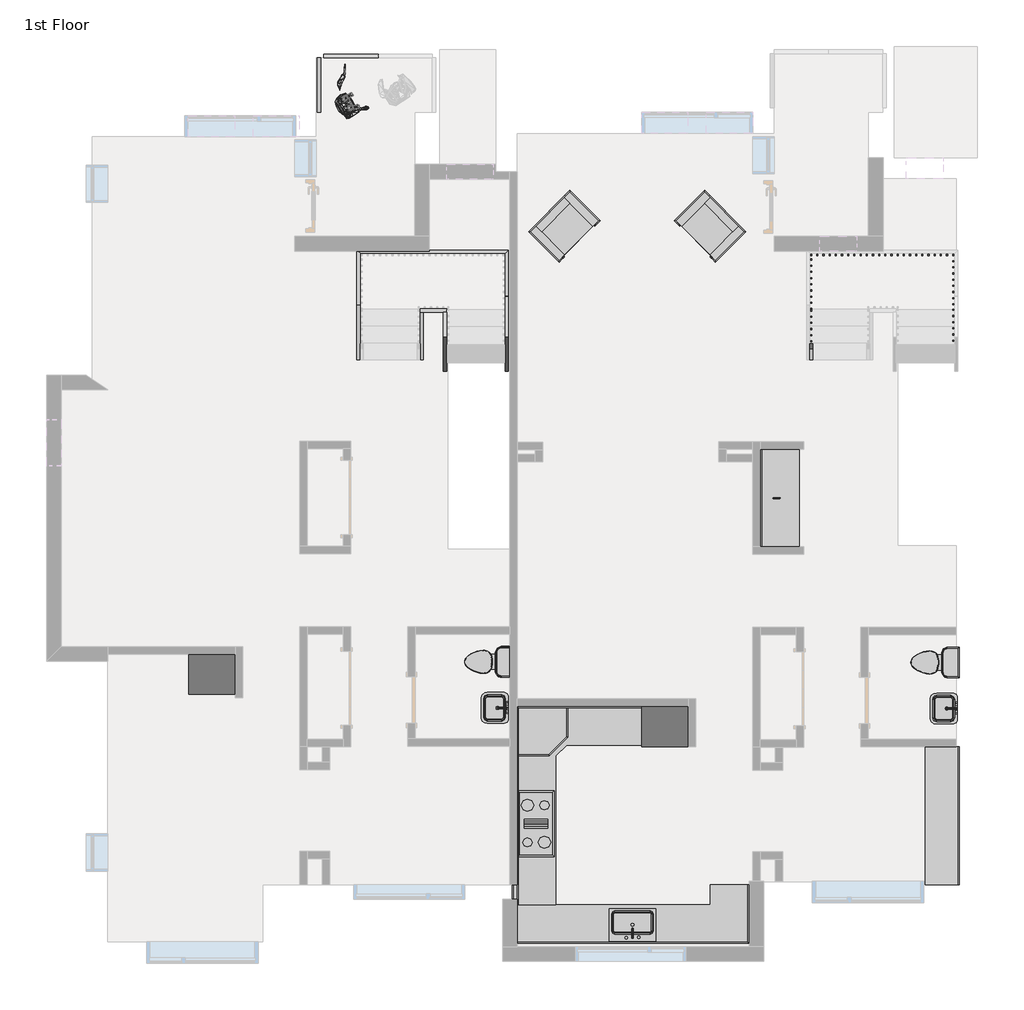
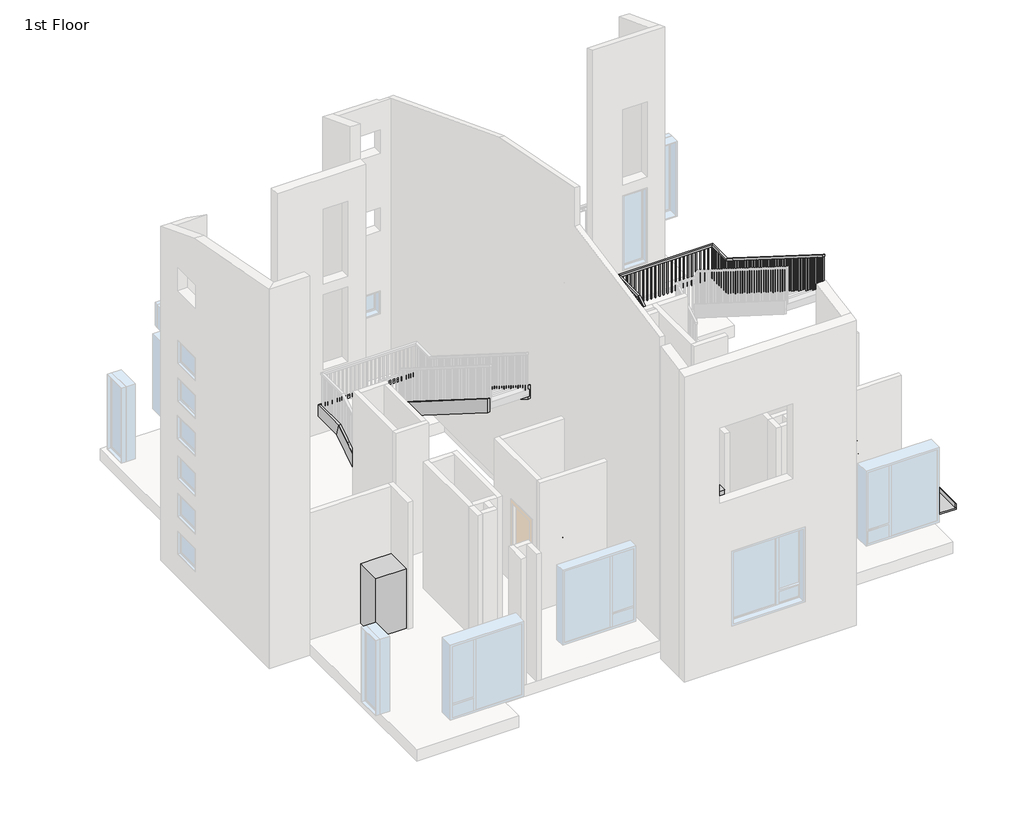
# One storey, part 5 of 6: 15 furniture elements, 8 members, 6 flow terminals, 5 proxies, 1 geographic element, 1 railing.
"""IFC4 building model written with IfcOpenShell, lengths in millimetres."""

from ifc_helpers import new_model, si_unit, frame, origin, place, context, project, spatial, polyline, outline, extrude, faceted_brep, transform, mapped, element, save
from components import proxy_dee7c00b, proxy_442c6cfd, railing_1panel_square_2b676750, flow_terminal_4af5d52b, flow_terminal_5184717d, flow_terminal_0aeb31e3, toilet_domestic_3d_toilet_domestic_3d_3687f172, toilet_domestic_3d_toilet_domestic_3d_183bbd19, furniture_f1e63d7b, furniture_c05eaed2, furniture_9c6ca97c, furniture_16018ffc, furniture_1f73a918, furniture_61266c35, furniture_aef3df76, furniture_a113b24a, furniture_f167ba72, corbu_armchair_corbu_armchair_71097553, corbu_armchair_corbu_armchair_8b21c121, furniture_7ee350fa, counter_top_counter_top_2_d2a73151, furniture_c58d4479, furniture_23ed0d10, geographic_element_6e18f213, geographic_element_c4ab7724

model = new_model("IFC4")

# Units and contexts
model_context = context("Model", 3, world=origin())
ifc_project = project(units=[si_unit("LENGTHUNIT", "METRE", prefix="MILLI")], contexts=[model_context])

# Site, building, storey
site = spatial("IfcSite", under=ifc_project)
building = spatial("IfcBuilding", under=site)
storey = spatial("IfcBuildingStorey", under=building, Name="1st Floor", Elevation=0.0)

# Proxies
placement = place(None, origin())
proxy_shape = proxy_dee7c00b(model_context)
element("IfcBuildingElementProxy", 1, Name="Cook Top-4 Unit : 40\" x 21\"", ObjectType="Cook Top-4 Unit : 40\" x 21\"", at=placement, inside=storey, context=model_context, shape_type="MappedRepresentation", body=[
    mapped(proxy_shape, transform((-1269.7321781, -4910.7686915, 127.0), x_axis=(0.0, 1.0, 0.0), y_axis=(-1.0, 0.0, 0.0), z_axis=(0.0, 0.0, 1.0))),
])
proxy_2_shape = proxy_442c6cfd(model_context)
element("IfcBuildingElementProxy", 2, Name="Refrigerator : 30\" x 62\"", ObjectType="Refrigerator : 30\" x 62\"", at=placement, inside=storey, context=model_context, shape_type="MappedRepresentation", body=[
    mapped(proxy_2_shape, transform((1235.5655789, -2979.9561915, 0.0), x_axis=(-1.0, 0.0, 0.0), y_axis=(0.0, -1.0, 0.0), z_axis=(0.0, 0.0, 1.0))),
])
element("IfcBuildingElementProxy", 3, Name="Refrigerator : 30\" x 62\"", ObjectType="Refrigerator : 30\" x 62\"", at=placement, inside=storey, context=model_context, shape_type="MappedRepresentation", body=[
    mapped(proxy_2_shape, transform((-6218.0913287, -2121.3686915, 0.0), x_axis=(-1.0, 0.0, 0.0), y_axis=(0.0, -1.0, 0.0), z_axis=(0.0, 0.0, 1.0))),
])
railing_1panel_square_shape = railing_1panel_square_2b676750(model_context)
element("IfcBuildingElementProxy", 4, Name="railing(inprogress)3 : railing 1panel square", ObjectType="railing(inprogress)3 : railing 1panel square", at=placement, inside=storey, context=model_context, shape_type="MappedRepresentation", body=[
    mapped(railing_1panel_square_shape, transform((-4828.9823605, 6715.6813085, 0.0), x_axis=(0.0, 1.0, 0.0), y_axis=(-1.0, 0.0, 0.0), z_axis=(0.0, 0.0, 1.0))),
])
element("IfcBuildingElementProxy", 5, Name="railing(inprogress)3 : railing 1panel square", ObjectType="railing(inprogress)3 : railing 1panel square", at=placement, inside=storey, context=model_context, shape_type="MappedRepresentation", body=[
    mapped(railing_1panel_square_shape, transform((-4839.2723151, 7708.900241, 0.0), x_axis=(1.0, 0.0, 0.0), y_axis=(0.0, 1.0, 0.0), z_axis=(0.0, 0.0, 1.0))),
])

# Flow terminals
flow_terminal_shape = flow_terminal_4af5d52b(model_context)
element("IfcFlowTerminal", 6, ObjectType="Sink Kitchen-Single : 30\" x 21\"", at=placement, inside=storey, context=model_context, shape_type="MappedRepresentation", body=[
    mapped(flow_terminal_shape, transform((334.5070625, -6571.2232904, 0.0), x_axis=(-1.0, 0.0, 0.0), y_axis=(0.0, -1.0, 0.0), z_axis=(0.0, 0.0, 1.0))),
])
flow_terminal_2_shape = flow_terminal_5184717d(model_context)
element("IfcFlowTerminal", 7, ObjectType="Sink Vanity-Round : 19\" x 19\"", at=placement, inside=storey, context=model_context, shape_type="MappedRepresentation", body=[
    mapped(flow_terminal_2_shape, transform((2881.7281723, 350.65568, 0.0), x_axis=(0.0, 1.0, 0.0), y_axis=(-1.0, 0.0, 0.0), z_axis=(0.0, 0.0, 1.0))),
])
flow_terminal_3_shape = flow_terminal_0aeb31e3(model_context)
element("IfcFlowTerminal", 8, ObjectType="Sink Vanity-Square : 24\" x 19\"", at=placement, inside=storey, context=model_context, shape_type="MappedRepresentation", body=[
    mapped(flow_terminal_3_shape, transform((5486.3201778, -2998.8737314, 0.0), x_axis=(0.0, -1.0, 0.0), y_axis=(1.0, 0.0, 0.0), z_axis=(0.0, 0.0, 1.0))),
])
element("IfcFlowTerminal", 9, ObjectType="Sink Vanity-Square : 24\" x 19\"", at=placement, inside=storey, context=model_context, shape_type="MappedRepresentation", body=[
    mapped(flow_terminal_3_shape, transform((-1903.9025792, -2988.8737314, 0.0), x_axis=(0.0, -1.0, 0.0), y_axis=(1.0, 0.0, 0.0), z_axis=(0.0, 0.0, 1.0))),
])
toilet_domestic_3d_toilet_domestic_3d_shape = toilet_domestic_3d_toilet_domestic_3d_3687f172(model_context)
toilet_domestic_3d_toilet_domestic_3d_2_shape = toilet_domestic_3d_toilet_domestic_3d_183bbd19(model_context)
element("IfcFlowTerminal", 10, ObjectType="Toilet-Domestic-3D : Toilet-Domestic-3D", at=placement, inside=storey, context=model_context, shape_type="MappedRepresentation", body=[
    mapped(toilet_domestic_3d_toilet_domestic_3d_shape, transform((5203.5195515, -2256.4311915, 0.0), x_axis=(0.0, -1.0, 0.0), y_axis=(1.0, 0.0, 0.0), z_axis=(0.0, 0.0, 1.0))),
    mapped(toilet_domestic_3d_toilet_domestic_3d_2_shape, transform((5203.5195515, -2256.4311915, 0.0), x_axis=(0.0, -1.0, 0.0), y_axis=(1.0, 0.0, 0.0), z_axis=(0.0, 0.0, 1.0))),
])
element("IfcFlowTerminal", 11, ObjectType="Toilet-Domestic-3D : Toilet-Domestic-3D", at=placement, inside=storey, context=model_context, shape_type="MappedRepresentation", body=[
    mapped(toilet_domestic_3d_toilet_domestic_3d_shape, transform((-2140.088995, -2246.8436915, 0.0), x_axis=(0.0, -1.0, 0.0), y_axis=(1.0, 0.0, 0.0), z_axis=(0.0, 0.0, 1.0))),
    mapped(toilet_domestic_3d_toilet_domestic_3d_2_shape, transform((-2140.088995, -2246.8436915, 0.0), x_axis=(0.0, -1.0, 0.0), y_axis=(1.0, 0.0, 0.0), z_axis=(0.0, 0.0, 1.0))),
])

# Furniture
furniture_shape = furniture_f1e63d7b(model_context)
element("IfcFurniture", 12, ObjectType="Base Cabinet-Single Door & Drawer : 12\"", at=placement, inside=storey, context=model_context, shape_type="MappedRepresentation", body=[
    mapped(furniture_shape, transform((2242.8678219, -6096.0434866, 0.0), x_axis=(0.0, -1.0, 0.0), y_axis=(1.0, 0.0, 0.0), z_axis=(0.0, 0.0, 1.0))),
])
furniture_2_shape = furniture_c05eaed2(model_context)
element("IfcFurniture", 13, ObjectType="Base Cabinet-Single Door & Drawer : 24\"", at=placement, inside=storey, context=model_context, shape_type="MappedRepresentation", body=[
    mapped(furniture_2_shape, transform((-1660.0344211, -4116.7063964, 0.0), x_axis=(0.0, 1.0, 0.0), y_axis=(-1.0, 0.0, 0.0), z_axis=(0.0, 0.0, 1.0))),
])
furniture_3_shape = furniture_9c6ca97c(model_context)
element("IfcFurniture", 14, ObjectType="Base Cabinet-Double Door & 2 Drawer : 33\"", at=placement, inside=storey, context=model_context, shape_type="MappedRepresentation", body=[
    mapped(furniture_3_shape, transform((-1660.0344211, -5888.3563964, 0.0), x_axis=(0.0, 1.0, 0.0), y_axis=(-1.0, 0.0, 0.0), z_axis=(0.0, 0.0, 1.0))),
])
furniture_4_shape = furniture_16018ffc(model_context)
element("IfcFurniture", 15, ObjectType="Base Cabinet-Double Door & 2 Drawer : 33\"", at=placement, inside=storey, context=model_context, shape_type="MappedRepresentation", body=[
    mapped(furniture_4_shape, transform((1214.480117, -6878.3686915, 0.0), x_axis=(1.0, 0.0, 0.0), y_axis=(0.0, 1.0, 0.0), z_axis=(0.0, 0.0, 1.0))),
])
furniture_5_shape = furniture_1f73a918(model_context)
element("IfcFurniture", 16, ObjectType="Base Cabinet-Double Door & 2 Drawer : 48\"", at=placement, inside=storey, context=model_context, shape_type="MappedRepresentation", body=[
    mapped(furniture_5_shape, transform((-154.772126, -2913.2436915, 0.0), x_axis=(1.0, 0.0, 0.0), y_axis=(0.0, 1.0, 0.0), z_axis=(0.0, 0.0, 1.0))),
])
furniture_6_shape = furniture_61266c35(model_context)
element("IfcFurniture", 17, ObjectType="Base Cabinet-Corner Unit-Angled : 36\"", at=placement, inside=storey, context=model_context, shape_type="MappedRepresentation", body=[
    mapped(furniture_6_shape, transform((-1133.2967162, -2878.7686915, 0.0), x_axis=(-1.0, 0.0, 0.0), y_axis=(0.0, -1.0, 0.0), z_axis=(0.0, 0.0, 1.0))),
])
furniture_7_shape = furniture_aef3df76(model_context)
element("IfcFurniture", 18, ObjectType="Base Cabinet-Double Door Sink Unit : 36\"", at=placement, inside=storey, context=model_context, shape_type="MappedRepresentation", body=[
    mapped(furniture_7_shape, transform((-652.419883, -6878.3686915, 0.0), x_axis=(1.0, 0.0, 0.0), y_axis=(0.0, 1.0, 0.0), z_axis=(0.0, 0.0, 1.0))),
])
furniture_8_shape = furniture_a113b24a(model_context)
element("IfcFurniture", 19, ObjectType="Base Cabinet-Double Door Sink Unit : 39\"", at=placement, inside=storey, context=model_context, shape_type="MappedRepresentation", body=[
    mapped(furniture_8_shape, transform((300.080117, -6878.3686915, 0.0), x_axis=(1.0, 0.0, 0.0), y_axis=(0.0, 1.0, 0.0), z_axis=(0.0, 0.0, 1.0))),
])
furniture_9_shape = furniture_f167ba72(model_context)
element("IfcFurniture", 20, ObjectType="Base Cabinet-Double Door Sink Unit : 42\"", at=placement, inside=storey, context=model_context, shape_type="MappedRepresentation", body=[
    mapped(furniture_9_shape, transform((-1660.0344211, -4935.8563964, 0.0), x_axis=(0.0, 1.0, 0.0), y_axis=(-1.0, 0.0, 0.0), z_axis=(0.0, 0.0, 1.0))),
])
corbu_armchair_corbu_armchair_shape = corbu_armchair_corbu_armchair_71097553(model_context)
element("IfcFurniture", 21, ObjectType="Corbu armchair : Corbu armchair", at=placement, inside=storey, context=model_context, shape_type="MappedRepresentation", body=[
    mapped(corbu_armchair_corbu_armchair_shape, transform((859.2867526, 4996.2834177, 0.0), x_axis=(0.7071067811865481, -0.7071067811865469, 0.0), y_axis=(0.7071067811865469, 0.7071067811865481, 0.0), z_axis=(0.0, 0.0, 1.0))),
])
corbu_armchair_corbu_armchair_2_shape = corbu_armchair_corbu_armchair_8b21c121(model_context)
element("IfcFurniture", 22, ObjectType="Corbu armchair : Corbu armchair", at=placement, inside=storey, context=model_context, shape_type="MappedRepresentation", body=[
    mapped(corbu_armchair_corbu_armchair_2_shape, transform((-64.4660693, 4996.2834177, 0.0), x_axis=(-0.7071067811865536, -0.7071067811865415, 0.0), y_axis=(0.7071067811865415, -0.7071067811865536, 0.0), z_axis=(0.0, 0.0, 1.0))),
])
furniture_10_shape = furniture_7ee350fa(model_context)
element("IfcFurniture", 23, ObjectType="Counter Top : 24\" Depth", at=placement, inside=storey, context=model_context, shape_type="MappedRepresentation", body=[
    mapped(furniture_10_shape, transform((2424.6053219, 847.6436036, 0.0), x_axis=(0.0, 1.0, 0.0), y_axis=(-1.0, 0.0, 0.0), z_axis=(0.0, 0.0, 1.0))),
])
counter_top_counter_top_2_shape = counter_top_counter_top_2_d2a73151(model_context)
element("IfcFurniture", 24, ObjectType="Counter Top : Counter Top 2", at=placement, inside=storey, context=model_context, shape_type="MappedRepresentation", body=[
    mapped(counter_top_counter_top_2_shape, transform((5698.2155789, -4847.1309866, 0.0), x_axis=(0.0, -1.0, 0.0), y_axis=(1.0, 0.0, 0.0), z_axis=(0.0, 0.0, 1.0))),
])
furniture_11_shape = furniture_c58d4479(model_context)
element("IfcFurniture", 25, ObjectType="Counter Top-L Shaped 2 : 24\" Depth", at=placement, inside=storey, context=model_context, shape_type="MappedRepresentation", body=[
    mapped(furniture_11_shape, transform((-375.657383, -2980.3686915, 0.0), x_axis=(1.0, 0.0, 0.0), y_axis=(0.0, 1.0, 0.0), z_axis=(0.0, 0.0, 1.0))),
])
furniture_12_shape = furniture_23ed0d10(model_context)
element("IfcFurniture", 26, ObjectType="Counter Top-L Shaped w Sink Hole : 24\" Depth", at=placement, inside=storey, context=model_context, shape_type="MappedRepresentation", body=[
    mapped(furniture_12_shape, transform((1036.0555268, -6878.3686915, 0.0), x_axis=(-1.0, 0.0, 0.0), y_axis=(0.0, -1.0, 0.0), z_axis=(0.0, 0.0, 1.0))),
])

# Geographic element
geographic_element_shape = geographic_element_6e18f213(model_context)
geographic_element_2_shape = geographic_element_c4ab7724(model_context)
element("IfcGeographicElement", 27, ObjectType="Woman05[1] : Woman05[1]", at=placement, inside=storey, context=model_context, shape_type="MappedRepresentation", body=[
    mapped(geographic_element_shape, transform((-4474.9881756, 6763.5643932, 0.0), x_axis=(0.8660254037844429, 0.49999999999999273, 0.0), y_axis=(-0.49999999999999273, 0.8660254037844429, 0.0), z_axis=(0.0, 0.0, 1.0))),
    mapped(geographic_element_2_shape, transform((-4474.9881756, 6763.5643932, 0.0), x_axis=(0.8660254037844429, 0.49999999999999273, 0.0), y_axis=(-0.49999999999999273, 0.8660254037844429, 0.0), z_axis=(0.0, 0.0, 1.0))),
])

# Members
element("IfcMember", 28, ObjectType="Stringer - 2\" Width", at=placement, inside=storey, context=model_context, shape_type="SweptSolid", body=[
    extrude(outline(polyline([(2721.6563085, 0.0), (2721.6563085, 214.5443726), (3620.2110519, 782.0526316), (3708.4050603, 477.2526316), (2952.7550603, 0.0), (2721.6563085, 0.0)])), frame((-4214.9663287, 0.0, 0.0), z_axis=(1.0, 0.0, 0.0), x_axis=(0.0, 1.0, 0.0)), (0.0, 0.0, 1.0), 50.8),
])
element("IfcMember", 29, ObjectType="Stringer - 2\" Width", at=placement, inside=storey, context=model_context, shape_type="SweptSolid", body=[
    extrude(outline(polyline([(2721.6563085, 0.0), (2721.6563085, 214.5443726), (3509.0563085, 711.8496358), (3509.0563085, 351.3481568), (2952.7550603, 0.0), (2721.6563085, 0.0)])), frame((-3173.5663287, 0.0, 0.0), z_axis=(1.0, 0.0, 0.0), x_axis=(0.0, 1.0, 0.0)), (0.0, 0.0, 1.0), 50.8),
])
element("IfcMember", 30, ObjectType="Stringer - 2\" Width", at=placement, inside=storey, context=model_context, shape_type="SweptSolid", body=[
    extrude(outline(polyline([(3765.7015652, 782.0526316), (3677.5075568, 477.2526316), (-364.9436915, 3030.3797357), (-364.9436915, 3390.8812147), (3765.7015652, 782.0526316)])), frame((-1774.5571781, 0.0, 0.0), z_axis=(1.0, 0.0, 0.0), x_axis=(0.0, 1.0, 0.0)), (0.0, 0.0, 1.0), 50.8),
])
element("IfcMember", 31, ObjectType="Stringer - 2\" Width", at=placement, inside=storey, context=model_context, shape_type="SweptSolid", body=[
    extrude(outline(polyline([(3509.0563085, 944.1443726), (3509.0563085, 583.6428936), (-364.9436915, 3030.3797357), (-364.9436915, 3390.8812147), (3509.0563085, 944.1443726)])), frame((-2790.5571781, 0.0, 0.0), z_axis=(1.0, 0.0, 0.0), x_axis=(0.0, 1.0, 0.0)), (0.0, 0.0, 1.0), 50.8),
])
element("IfcMember", 32, ObjectType="Stringer - 2\" Width", at=placement, inside=storey, context=model_context, shape_type="Brep", body=[
    faceted_brep([(-1774.5571781, 3765.7015652, 782.0526316), (-1723.7571781, 3765.7015652, 782.0526316), (-1723.7571781, 4525.0563085, 782.0526316), (-1774.5571781, 4474.2563085, 782.0526316), (-1774.5571781, 3677.5075568, 477.2526316), (-1774.5571781, 4474.2563085, 477.2526316), (-1723.7571781, 3677.5075568, 477.2526316), (-1723.7571781, 4525.0563085, 477.2526316)], [[[0, 1, 2, 3]], [[4, 0, 3, 5]], [[6, 4, 5, 7]], [[1, 6, 7, 2]], [[1, 0, 4, 6]], [[2, 7, 5, 3]]]),
])
element("IfcMember", 33, ObjectType="Stringer - 2\" Width", at=placement, inside=storey, context=model_context, shape_type="SweptSolid", body=[
    extrude(outline(polyline([(-1723.7571781, 4525.0563085), (-1774.5571781, 4474.2563085), (-4164.1663287, 4474.2563085), (-4214.9663287, 4525.0563085), (-1723.7571781, 4525.0563085)])), frame((0.0, 0.0, 477.2526316), z_axis=(0.0, 0.0, 1.0), x_axis=(1.0, 0.0, 0.0)), (0.0, 0.0, 1.0), 304.8),
])
element("IfcMember", 34, ObjectType="Stringer - 2\" Width", at=placement, inside=storey, context=model_context, shape_type="Brep", body=[
    faceted_brep([(-4164.1663287, 4474.2563085, 782.0526316), (-4214.9663287, 4525.0563085, 782.0526316), (-4214.9663287, 3620.2110519, 782.0526316), (-4164.1663287, 3620.2110519, 782.0526316), (-4164.1663287, 4474.2563085, 477.2526316), (-4164.1663287, 3708.4050603, 477.2526316), (-4214.9663287, 4525.0563085, 477.2526316), (-4214.9663287, 3708.4050603, 477.2526316)], [[[0, 1, 2, 3]], [[4, 0, 3, 5]], [[6, 4, 5, 7]], [[1, 6, 7, 2]], [[1, 0, 4, 6]], [[2, 7, 5, 3]]]),
])
element("IfcMember", 35, ObjectType="Stringer - 2\" Width", at=placement, inside=storey, context=model_context, shape_type="SweptSolid", body=[
    extrude(outline(polyline([(-3173.5663287, 3509.0563085), (-3173.5663287, 3559.8563085), (-2739.7571781, 3559.8563085), (-2739.7571781, 3509.0563085), (-3173.5663287, 3509.0563085)])), frame((0.0, 0.0, 477.2526316), z_axis=(0.0, 0.0, 1.0), x_axis=(1.0, 0.0, 0.0)), (0.0, 0.0, 1.0), 304.8),
])

# Railing
element("IfcRailing", 36, ObjectType="Handrail - Rectangular", at=placement, inside=storey, context=model_context, shape_type="SolidModel", body=[
    faceted_brep([(3233.9939282, 2721.6563085, 1090.8631579), (3233.9939282, 2721.6563085, 1030.7795781), (3284.7939282, 2721.6563085, 1030.7795781), (3284.7939282, 2721.6563085, 1090.8631579), (3233.9939282, 3559.8563085, 1620.2526316), (3233.9939282, 3574.5553099, 1569.4526316), (3284.7939282, 3574.5553099, 1569.4526316), (3284.7939282, 3559.8563085, 1620.2526316), (3233.9939282, 4474.2563085, 1620.2526316), (3233.9939282, 4474.2563085, 1569.4526316), (3284.7939282, 4423.4563085, 1569.4526316), (3284.7939282, 4423.4563085, 1620.2526316), (5623.6030789, 4474.2563085, 1620.2526316), (5623.6030789, 4474.2563085, 1569.4526316), (5572.8030789, 4423.4563085, 1569.4526316), (5572.8030789, 4423.4563085, 1620.2526316), (5623.6030789, 3826.0563085, 1620.2526316), (5623.6030789, 3811.3573071, 1569.4526316), (5572.8030789, 3811.3573071, 1569.4526316), (5572.8030789, 3826.0563085, 1620.2526316), (5623.6030789, 3546.6563085, 1796.7157895), (5623.6030789, 3519.5294646, 1753.7649532), (5572.8030789, 3519.5294646, 1753.7649532), (5572.8030789, 3546.6563085, 1796.7157895), (5623.6030789, -364.9436915, 4267.2), (5572.8030789, -364.9436915, 4267.2), (5572.8030789, -364.9436915, 4207.1164202), (5623.6030789, -364.9436915, 4207.1164202)], [[[0, 1, 2, 3]], [[1, 0, 4, 5]], [[2, 1, 5, 6]], [[3, 2, 6, 7]], [[0, 3, 7, 4]], [[5, 4, 8, 9]], [[6, 5, 9, 10]], [[7, 6, 10, 11]], [[4, 7, 11, 8]], [[9, 8, 12, 13]], [[10, 9, 13, 14]], [[11, 10, 14, 15]], [[8, 11, 15, 12]], [[13, 12, 16, 17]], [[14, 13, 17, 18]], [[15, 14, 18, 19]], [[12, 15, 19, 16]], [[17, 16, 20, 21]], [[18, 17, 21, 22]], [[19, 18, 22, 23]], [[16, 19, 23, 20]], [[24, 25, 26, 27]], [[21, 20, 24, 27]], [[22, 21, 27, 26]], [[23, 22, 26, 25]], [[20, 23, 25, 24]]]),
    extrude(outline(polyline([(-304.6186915, 4169.0164202), (-304.6186915, 3176.3368421), (-323.6686915, 3176.3368421), (-323.6686915, 4181.0479991), (-304.6186915, 4169.0164202)])), frame((5588.6780789, 0.0, 0.0), z_axis=(1.0, 0.0, 0.0), x_axis=(0.0, 1.0, 0.0)), (0.0, 0.0, 1.0), 19.05),
    extrude(outline(polyline([(-203.0186915, 4104.8479991), (-203.0186915, 3176.3368421), (-222.0686915, 3176.3368421), (-222.0686915, 4116.8795781), (-203.0186915, 4104.8479991)])), frame((5588.6780789, 0.0, 0.0), z_axis=(1.0, 0.0, 0.0), x_axis=(0.0, 1.0, 0.0)), (0.0, 0.0, 1.0), 19.05),
    extrude(outline(polyline([(-101.4186915, 4040.6795781), (-101.4186915, 3176.3368421), (-120.4686915, 3176.3368421), (-120.4686915, 4052.711157), (-101.4186915, 4040.6795781)])), frame((5588.6780789, 0.0, 0.0), z_axis=(1.0, 0.0, 0.0), x_axis=(0.0, 1.0, 0.0)), (0.0, 0.0, 1.0), 19.05),
    extrude(outline(polyline([(0.1813085, 3976.511157), (0.1813085, 2999.8736842), (-18.8686915, 2999.8736842), (-18.8686915, 3988.542736), (0.1813085, 3976.511157)])), frame((5588.6780789, 0.0, 0.0), z_axis=(1.0, 0.0, 0.0), x_axis=(0.0, 1.0, 0.0)), (0.0, 0.0, 1.0), 19.05),
    extrude(outline(polyline([(101.7813085, 3912.342736), (101.7813085, 2999.8736842), (82.7313085, 2999.8736842), (82.7313085, 3924.3743149), (101.7813085, 3912.342736)])), frame((5588.6780789, 0.0, 0.0), z_axis=(1.0, 0.0, 0.0), x_axis=(0.0, 1.0, 0.0)), (0.0, 0.0, 1.0), 19.05),
    extrude(outline(polyline([(203.3813085, 3848.1743149), (203.3813085, 2999.8736842), (184.3313085, 2999.8736842), (184.3313085, 3860.2058939), (203.3813085, 3848.1743149)])), frame((5588.6780789, 0.0, 0.0), z_axis=(1.0, 0.0, 0.0), x_axis=(0.0, 1.0, 0.0)), (0.0, 0.0, 1.0), 19.05),
    extrude(outline(polyline([(304.9813085, 3784.0058939), (304.9813085, 2823.4105263), (285.9313085, 2823.4105263), (285.9313085, 3796.0374728), (304.9813085, 3784.0058939)])), frame((5588.6780789, 0.0, 0.0), z_axis=(1.0, 0.0, 0.0), x_axis=(0.0, 1.0, 0.0)), (0.0, 0.0, 1.0), 19.05),
    extrude(outline(polyline([(406.5813085, 3719.8374728), (406.5813085, 2823.4105263), (387.5313085, 2823.4105263), (387.5313085, 3731.8690517), (406.5813085, 3719.8374728)])), frame((5588.6780789, 0.0, 0.0), z_axis=(1.0, 0.0, 0.0), x_axis=(0.0, 1.0, 0.0)), (0.0, 0.0, 1.0), 19.05),
    extrude(outline(polyline([(508.1813085, 3655.6690517), (508.1813085, 2646.9473684), (489.1313085, 2646.9473684), (489.1313085, 3667.7006307), (508.1813085, 3655.6690517)])), frame((5588.6780789, 0.0, 0.0), z_axis=(1.0, 0.0, 0.0), x_axis=(0.0, 1.0, 0.0)), (0.0, 0.0, 1.0), 19.05),
    extrude(outline(polyline([(609.7813085, 3591.5006307), (609.7813085, 2646.9473684), (590.7313085, 2646.9473684), (590.7313085, 3603.5322096), (609.7813085, 3591.5006307)])), frame((5588.6780789, 0.0, 0.0), z_axis=(1.0, 0.0, 0.0), x_axis=(0.0, 1.0, 0.0)), (0.0, 0.0, 1.0), 19.05),
    extrude(outline(polyline([(711.3813085, 3527.3322096), (711.3813085, 2646.9473684), (692.3313085, 2646.9473684), (692.3313085, 3539.3637886), (711.3813085, 3527.3322096)])), frame((5588.6780789, 0.0, 0.0), z_axis=(1.0, 0.0, 0.0), x_axis=(0.0, 1.0, 0.0)), (0.0, 0.0, 1.0), 19.05),
    extrude(outline(polyline([(812.9813085, 3463.1637886), (812.9813085, 2470.4842105), (793.9313085, 2470.4842105), (793.9313085, 3475.1953675), (812.9813085, 3463.1637886)])), frame((5588.6780789, 0.0, 0.0), z_axis=(1.0, 0.0, 0.0), x_axis=(0.0, 1.0, 0.0)), (0.0, 0.0, 1.0), 19.05),
    extrude(outline(polyline([(914.5813085, 3398.9953675), (914.5813085, 2470.4842105), (895.5313085, 2470.4842105), (895.5313085, 3411.0269465), (914.5813085, 3398.9953675)])), frame((5588.6780789, 0.0, 0.0), z_axis=(1.0, 0.0, 0.0), x_axis=(0.0, 1.0, 0.0)), (0.0, 0.0, 1.0), 19.05),
    extrude(outline(polyline([(1016.1813085, 3334.8269465), (1016.1813085, 2470.4842105), (997.1313085, 2470.4842105), (997.1313085, 3346.8585254), (1016.1813085, 3334.8269465)])), frame((5588.6780789, 0.0, 0.0), z_axis=(1.0, 0.0, 0.0), x_axis=(0.0, 1.0, 0.0)), (0.0, 0.0, 1.0), 19.05),
    extrude(outline(polyline([(1117.7813085, 3270.6585254), (1117.7813085, 2294.0210526), (1098.7313085, 2294.0210526), (1098.7313085, 3282.6901044), (1117.7813085, 3270.6585254)])), frame((5588.6780789, 0.0, 0.0), z_axis=(1.0, 0.0, 0.0), x_axis=(0.0, 1.0, 0.0)), (0.0, 0.0, 1.0), 19.05),
    extrude(outline(polyline([(1219.3813085, 3206.4901044), (1219.3813085, 2294.0210526), (1200.3313085, 2294.0210526), (1200.3313085, 3218.5216833), (1219.3813085, 3206.4901044)])), frame((5588.6780789, 0.0, 0.0), z_axis=(1.0, 0.0, 0.0), x_axis=(0.0, 1.0, 0.0)), (0.0, 0.0, 1.0), 19.05),
    extrude(outline(polyline([(1320.9813085, 3142.3216833), (1320.9813085, 2294.0210526), (1301.9313085, 2294.0210526), (1301.9313085, 3154.3532623), (1320.9813085, 3142.3216833)])), frame((5588.6780789, 0.0, 0.0), z_axis=(1.0, 0.0, 0.0), x_axis=(0.0, 1.0, 0.0)), (0.0, 0.0, 1.0), 19.05),
    extrude(outline(polyline([(1422.5813085, 3078.1532623), (1422.5813085, 2117.5578947), (1403.5313085, 2117.5578947), (1403.5313085, 3090.1848412), (1422.5813085, 3078.1532623)])), frame((5588.6780789, 0.0, 0.0), z_axis=(1.0, 0.0, 0.0), x_axis=(0.0, 1.0, 0.0)), (0.0, 0.0, 1.0), 19.05),
    extrude(outline(polyline([(1524.1813085, 3013.9848412), (1524.1813085, 2117.5578947), (1505.1313085, 2117.5578947), (1505.1313085, 3026.0164202), (1524.1813085, 3013.9848412)])), frame((5588.6780789, 0.0, 0.0), z_axis=(1.0, 0.0, 0.0), x_axis=(0.0, 1.0, 0.0)), (0.0, 0.0, 1.0), 19.05),
    extrude(outline(polyline([(1625.7813085, 2949.8164202), (1625.7813085, 1941.0947368), (1606.7313085, 1941.0947368), (1606.7313085, 2961.8479991), (1625.7813085, 2949.8164202)])), frame((5588.6780789, 0.0, 0.0), z_axis=(1.0, 0.0, 0.0), x_axis=(0.0, 1.0, 0.0)), (0.0, 0.0, 1.0), 19.05),
    extrude(outline(polyline([(1727.3813085, 2885.6479991), (1727.3813085, 1941.0947368), (1708.3313085, 1941.0947368), (1708.3313085, 2897.6795781), (1727.3813085, 2885.6479991)])), frame((5588.6780789, 0.0, 0.0), z_axis=(1.0, 0.0, 0.0), x_axis=(0.0, 1.0, 0.0)), (0.0, 0.0, 1.0), 19.05),
    extrude(outline(polyline([(1828.9813085, 2821.4795781), (1828.9813085, 1941.0947368), (1809.9313085, 1941.0947368), (1809.9313085, 2833.511157), (1828.9813085, 2821.4795781)])), frame((5588.6780789, 0.0, 0.0), z_axis=(1.0, 0.0, 0.0), x_axis=(0.0, 1.0, 0.0)), (0.0, 0.0, 1.0), 19.05),
    extrude(outline(polyline([(1930.5813085, 2757.311157), (1930.5813085, 1764.6315789), (1911.5313085, 1764.6315789), (1911.5313085, 2769.342736), (1930.5813085, 2757.311157)])), frame((5588.6780789, 0.0, 0.0), z_axis=(1.0, 0.0, 0.0), x_axis=(0.0, 1.0, 0.0)), (0.0, 0.0, 1.0), 19.05),
    extrude(outline(polyline([(2032.1813085, 2693.142736), (2032.1813085, 1764.6315789), (2013.1313085, 1764.6315789), (2013.1313085, 2705.1743149), (2032.1813085, 2693.142736)])), frame((5588.6780789, 0.0, 0.0), z_axis=(1.0, 0.0, 0.0), x_axis=(0.0, 1.0, 0.0)), (0.0, 0.0, 1.0), 19.05),
    extrude(outline(polyline([(2133.7813085, 2628.9743149), (2133.7813085, 1764.6315789), (2114.7313085, 1764.6315789), (2114.7313085, 2641.0058939), (2133.7813085, 2628.9743149)])), frame((5588.6780789, 0.0, 0.0), z_axis=(1.0, 0.0, 0.0), x_axis=(0.0, 1.0, 0.0)), (0.0, 0.0, 1.0), 19.05),
    extrude(outline(polyline([(2235.3813085, 2564.8058939), (2235.3813085, 1588.1684211), (2216.3313085, 1588.1684211), (2216.3313085, 2576.8374728), (2235.3813085, 2564.8058939)])), frame((5588.6780789, 0.0, 0.0), z_axis=(1.0, 0.0, 0.0), x_axis=(0.0, 1.0, 0.0)), (0.0, 0.0, 1.0), 19.05),
    extrude(outline(polyline([(2336.9813085, 2500.6374728), (2336.9813085, 1588.1684211), (2317.9313085, 1588.1684211), (2317.9313085, 2512.6690517), (2336.9813085, 2500.6374728)])), frame((5588.6780789, 0.0, 0.0), z_axis=(1.0, 0.0, 0.0), x_axis=(0.0, 1.0, 0.0)), (0.0, 0.0, 1.0), 19.05),
    extrude(outline(polyline([(2438.5813085, 2436.4690517), (2438.5813085, 1588.1684211), (2419.5313085, 1588.1684211), (2419.5313085, 2448.5006307), (2438.5813085, 2436.4690517)])), frame((5588.6780789, 0.0, 0.0), z_axis=(1.0, 0.0, 0.0), x_axis=(0.0, 1.0, 0.0)), (0.0, 0.0, 1.0), 19.05),
    extrude(outline(polyline([(2540.1813085, 2372.3006307), (2540.1813085, 1411.7052632), (2521.1313085, 1411.7052632), (2521.1313085, 2384.3322096), (2540.1813085, 2372.3006307)])), frame((5588.6780789, 0.0, 0.0), z_axis=(1.0, 0.0, 0.0), x_axis=(0.0, 1.0, 0.0)), (0.0, 0.0, 1.0), 19.05),
    extrude(outline(polyline([(2641.7813085, 2308.1322096), (2641.7813085, 1411.7052632), (2622.7313085, 1411.7052632), (2622.7313085, 2320.1637886), (2641.7813085, 2308.1322096)])), frame((5588.6780789, 0.0, 0.0), z_axis=(1.0, 0.0, 0.0), x_axis=(0.0, 1.0, 0.0)), (0.0, 0.0, 1.0), 19.05),
    extrude(outline(polyline([(2743.3813085, 2243.9637886), (2743.3813085, 1235.2421053), (2724.3313085, 1235.2421053), (2724.3313085, 2255.9953675), (2743.3813085, 2243.9637886)])), frame((5588.6780789, 0.0, 0.0), z_axis=(1.0, 0.0, 0.0), x_axis=(0.0, 1.0, 0.0)), (0.0, 0.0, 1.0), 19.05),
    extrude(outline(polyline([(2844.9813085, 2179.7953675), (2844.9813085, 1235.2421053), (2825.9313085, 1235.2421053), (2825.9313085, 2191.8269465), (2844.9813085, 2179.7953675)])), frame((5588.6780789, 0.0, 0.0), z_axis=(1.0, 0.0, 0.0), x_axis=(0.0, 1.0, 0.0)), (0.0, 0.0, 1.0), 19.05),
    extrude(outline(polyline([(2946.5813085, 2115.6269465), (2946.5813085, 1235.2421053), (2927.5313085, 1235.2421053), (2927.5313085, 2127.6585254), (2946.5813085, 2115.6269465)])), frame((5588.6780789, 0.0, 0.0), z_axis=(1.0, 0.0, 0.0), x_axis=(0.0, 1.0, 0.0)), (0.0, 0.0, 1.0), 19.05),
    extrude(outline(polyline([(3048.1813085, 2051.4585254), (3048.1813085, 1058.7789474), (3029.1313085, 1058.7789474), (3029.1313085, 2063.4901044), (3048.1813085, 2051.4585254)])), frame((5588.6780789, 0.0, 0.0), z_axis=(1.0, 0.0, 0.0), x_axis=(0.0, 1.0, 0.0)), (0.0, 0.0, 1.0), 19.05),
    extrude(outline(polyline([(3149.7813085, 1987.2901044), (3149.7813085, 1058.7789474), (3130.7313085, 1058.7789474), (3130.7313085, 1999.3216833), (3149.7813085, 1987.2901044)])), frame((5588.6780789, 0.0, 0.0), z_axis=(1.0, 0.0, 0.0), x_axis=(0.0, 1.0, 0.0)), (0.0, 0.0, 1.0), 19.05),
    extrude(outline(polyline([(3251.3813085, 1923.1216833), (3251.3813085, 1058.7789474), (3232.3313085, 1058.7789474), (3232.3313085, 1935.1532623), (3251.3813085, 1923.1216833)])), frame((5588.6780789, 0.0, 0.0), z_axis=(1.0, 0.0, 0.0), x_axis=(0.0, 1.0, 0.0)), (0.0, 0.0, 1.0), 19.05),
    extrude(outline(polyline([(3352.9813085, 1858.9532623), (3352.9813085, 882.3157895), (3333.9313085, 882.3157895), (3333.9313085, 1870.9848412), (3352.9813085, 1858.9532623)])), frame((5588.6780789, 0.0, 0.0), z_axis=(1.0, 0.0, 0.0), x_axis=(0.0, 1.0, 0.0)), (0.0, 0.0, 1.0), 19.05),
    extrude(outline(polyline([(3454.5813085, 1794.7848412), (3454.5813085, 882.3157895), (3435.5313085, 882.3157895), (3435.5313085, 1806.8164202), (3454.5813085, 1794.7848412)])), frame((5588.6780789, 0.0, 0.0), z_axis=(1.0, 0.0, 0.0), x_axis=(0.0, 1.0, 0.0)), (0.0, 0.0, 1.0), 19.05),
    extrude(outline(polyline([(3645.5813085, 1674.1532623), (3645.5813085, 705.8526316), (3626.5313085, 705.8526316), (3626.5313085, 1686.1848412), (3645.5813085, 1674.1532623)])), frame((5588.6780789, 0.0, 0.0), z_axis=(1.0, 0.0, 0.0), x_axis=(0.0, 1.0, 0.0)), (0.0, 0.0, 1.0), 19.05),
    extrude(outline(polyline([(3747.1813085, 1609.9848412), (3747.1813085, 705.8526316), (3728.1313085, 705.8526316), (3728.1313085, 1622.0164202), (3747.1813085, 1609.9848412)])), frame((5588.6780789, 0.0, 0.0), z_axis=(1.0, 0.0, 0.0), x_axis=(0.0, 1.0, 0.0)), (0.0, 0.0, 1.0), 19.05),
    extrude(outline(polyline([(5607.7280789, 3848.7813085), (5607.7280789, 3829.7313085), (5588.6780789, 3829.7313085), (5588.6780789, 3848.7813085), (5607.7280789, 3848.7813085)])), frame((0.0, 0.0, 705.8526316), z_axis=(0.0, 0.0, 1.0), x_axis=(1.0, 0.0, 0.0)), (0.0, 0.0, 1.0), 863.6),
    extrude(outline(polyline([(5607.7280789, 3950.3813085), (5607.7280789, 3931.3313085), (5588.6780789, 3931.3313085), (5588.6780789, 3950.3813085), (5607.7280789, 3950.3813085)])), frame((0.0, 0.0, 705.8526316), z_axis=(0.0, 0.0, 1.0), x_axis=(1.0, 0.0, 0.0)), (0.0, 0.0, 1.0), 863.6),
    extrude(outline(polyline([(5607.7280789, 4051.9813085), (5607.7280789, 4032.9313085), (5588.6780789, 4032.9313085), (5588.6780789, 4051.9813085), (5607.7280789, 4051.9813085)])), frame((0.0, 0.0, 705.8526316), z_axis=(0.0, 0.0, 1.0), x_axis=(1.0, 0.0, 0.0)), (0.0, 0.0, 1.0), 863.6),
    extrude(outline(polyline([(5607.7280789, 4153.5813085), (5607.7280789, 4134.5313085), (5588.6780789, 4134.5313085), (5588.6780789, 4153.5813085), (5607.7280789, 4153.5813085)])), frame((0.0, 0.0, 705.8526316), z_axis=(0.0, 0.0, 1.0), x_axis=(1.0, 0.0, 0.0)), (0.0, 0.0, 1.0), 863.6),
    extrude(outline(polyline([(5607.7280789, 4255.1813085), (5607.7280789, 4236.1313085), (5588.6780789, 4236.1313085), (5588.6780789, 4255.1813085), (5607.7280789, 4255.1813085)])), frame((0.0, 0.0, 705.8526316), z_axis=(0.0, 0.0, 1.0), x_axis=(1.0, 0.0, 0.0)), (0.0, 0.0, 1.0), 863.6),
    extrude(outline(polyline([(5607.7280789, 4356.7813085), (5607.7280789, 4337.7313085), (5588.6780789, 4337.7313085), (5588.6780789, 4356.7813085), (5607.7280789, 4356.7813085)])), frame((0.0, 0.0, 705.8526316), z_axis=(0.0, 0.0, 1.0), x_axis=(1.0, 0.0, 0.0)), (0.0, 0.0, 1.0), 863.6),
    extrude(outline(polyline([(5586.6689282, 4458.3813085), (5605.7189282, 4458.3813085), (5605.7189282, 4439.3313085), (5586.6689282, 4439.3313085), (5586.6689282, 4458.3813085)])), frame((0.0, 0.0, 705.8526316), z_axis=(0.0, 0.0, 1.0), x_axis=(1.0, 0.0, 0.0)), (0.0, 0.0, 1.0), 863.6),
    extrude(outline(polyline([(5485.0689282, 4458.3813085), (5504.1189282, 4458.3813085), (5504.1189282, 4439.3313085), (5485.0689282, 4439.3313085), (5485.0689282, 4458.3813085)])), frame((0.0, 0.0, 705.8526316), z_axis=(0.0, 0.0, 1.0), x_axis=(1.0, 0.0, 0.0)), (0.0, 0.0, 1.0), 863.6),
    extrude(outline(polyline([(5383.4689282, 4458.3813085), (5402.5189282, 4458.3813085), (5402.5189282, 4439.3313085), (5383.4689282, 4439.3313085), (5383.4689282, 4458.3813085)])), frame((0.0, 0.0, 705.8526316), z_axis=(0.0, 0.0, 1.0), x_axis=(1.0, 0.0, 0.0)), (0.0, 0.0, 1.0), 863.6),
    extrude(outline(polyline([(5281.8689282, 4458.3813085), (5300.9189282, 4458.3813085), (5300.9189282, 4439.3313085), (5281.8689282, 4439.3313085), (5281.8689282, 4458.3813085)])), frame((0.0, 0.0, 705.8526316), z_axis=(0.0, 0.0, 1.0), x_axis=(1.0, 0.0, 0.0)), (0.0, 0.0, 1.0), 863.6),
    extrude(outline(polyline([(5180.2689282, 4458.3813085), (5199.3189282, 4458.3813085), (5199.3189282, 4439.3313085), (5180.2689282, 4439.3313085), (5180.2689282, 4458.3813085)])), frame((0.0, 0.0, 705.8526316), z_axis=(0.0, 0.0, 1.0), x_axis=(1.0, 0.0, 0.0)), (0.0, 0.0, 1.0), 863.6),
    extrude(outline(polyline([(5078.6689282, 4458.3813085), (5097.7189282, 4458.3813085), (5097.7189282, 4439.3313085), (5078.6689282, 4439.3313085), (5078.6689282, 4458.3813085)])), frame((0.0, 0.0, 705.8526316), z_axis=(0.0, 0.0, 1.0), x_axis=(1.0, 0.0, 0.0)), (0.0, 0.0, 1.0), 863.6),
    extrude(outline(polyline([(4977.0689282, 4458.3813085), (4996.1189282, 4458.3813085), (4996.1189282, 4439.3313085), (4977.0689282, 4439.3313085), (4977.0689282, 4458.3813085)])), frame((0.0, 0.0, 705.8526316), z_axis=(0.0, 0.0, 1.0), x_axis=(1.0, 0.0, 0.0)), (0.0, 0.0, 1.0), 863.6),
    extrude(outline(polyline([(4875.4689282, 4458.3813085), (4894.5189282, 4458.3813085), (4894.5189282, 4439.3313085), (4875.4689282, 4439.3313085), (4875.4689282, 4458.3813085)])), frame((0.0, 0.0, 705.8526316), z_axis=(0.0, 0.0, 1.0), x_axis=(1.0, 0.0, 0.0)), (0.0, 0.0, 1.0), 863.6),
    extrude(outline(polyline([(4773.8689282, 4458.3813085), (4792.9189282, 4458.3813085), (4792.9189282, 4439.3313085), (4773.8689282, 4439.3313085), (4773.8689282, 4458.3813085)])), frame((0.0, 0.0, 705.8526316), z_axis=(0.0, 0.0, 1.0), x_axis=(1.0, 0.0, 0.0)), (0.0, 0.0, 1.0), 863.6),
    extrude(outline(polyline([(4672.2689282, 4458.3813085), (4691.3189282, 4458.3813085), (4691.3189282, 4439.3313085), (4672.2689282, 4439.3313085), (4672.2689282, 4458.3813085)])), frame((0.0, 0.0, 705.8526316), z_axis=(0.0, 0.0, 1.0), x_axis=(1.0, 0.0, 0.0)), (0.0, 0.0, 1.0), 863.6),
    extrude(outline(polyline([(4570.6689282, 4458.3813085), (4589.7189282, 4458.3813085), (4589.7189282, 4439.3313085), (4570.6689282, 4439.3313085), (4570.6689282, 4458.3813085)])), frame((0.0, 0.0, 705.8526316), z_axis=(0.0, 0.0, 1.0), x_axis=(1.0, 0.0, 0.0)), (0.0, 0.0, 1.0), 863.6),
    extrude(outline(polyline([(4469.0689282, 4458.3813085), (4488.1189282, 4458.3813085), (4488.1189282, 4439.3313085), (4469.0689282, 4439.3313085), (4469.0689282, 4458.3813085)])), frame((0.0, 0.0, 705.8526316), z_axis=(0.0, 0.0, 1.0), x_axis=(1.0, 0.0, 0.0)), (0.0, 0.0, 1.0), 863.6),
    extrude(outline(polyline([(4367.4689282, 4458.3813085), (4386.5189282, 4458.3813085), (4386.5189282, 4439.3313085), (4367.4689282, 4439.3313085), (4367.4689282, 4458.3813085)])), frame((0.0, 0.0, 705.8526316), z_axis=(0.0, 0.0, 1.0), x_axis=(1.0, 0.0, 0.0)), (0.0, 0.0, 1.0), 863.6),
    extrude(outline(polyline([(4265.8689282, 4458.3813085), (4284.9189282, 4458.3813085), (4284.9189282, 4439.3313085), (4265.8689282, 4439.3313085), (4265.8689282, 4458.3813085)])), frame((0.0, 0.0, 705.8526316), z_axis=(0.0, 0.0, 1.0), x_axis=(1.0, 0.0, 0.0)), (0.0, 0.0, 1.0), 863.6),
    extrude(outline(polyline([(4164.2689282, 4458.3813085), (4183.3189282, 4458.3813085), (4183.3189282, 4439.3313085), (4164.2689282, 4439.3313085), (4164.2689282, 4458.3813085)])), frame((0.0, 0.0, 705.8526316), z_axis=(0.0, 0.0, 1.0), x_axis=(1.0, 0.0, 0.0)), (0.0, 0.0, 1.0), 863.6),
    extrude(outline(polyline([(4062.6689282, 4458.3813085), (4081.7189282, 4458.3813085), (4081.7189282, 4439.3313085), (4062.6689282, 4439.3313085), (4062.6689282, 4458.3813085)])), frame((0.0, 0.0, 705.8526316), z_axis=(0.0, 0.0, 1.0), x_axis=(1.0, 0.0, 0.0)), (0.0, 0.0, 1.0), 863.6),
    extrude(outline(polyline([(3961.0689282, 4458.3813085), (3980.1189282, 4458.3813085), (3980.1189282, 4439.3313085), (3961.0689282, 4439.3313085), (3961.0689282, 4458.3813085)])), frame((0.0, 0.0, 705.8526316), z_axis=(0.0, 0.0, 1.0), x_axis=(1.0, 0.0, 0.0)), (0.0, 0.0, 1.0), 863.6),
    extrude(outline(polyline([(3859.4689282, 4458.3813085), (3878.5189282, 4458.3813085), (3878.5189282, 4439.3313085), (3859.4689282, 4439.3313085), (3859.4689282, 4458.3813085)])), frame((0.0, 0.0, 705.8526316), z_axis=(0.0, 0.0, 1.0), x_axis=(1.0, 0.0, 0.0)), (0.0, 0.0, 1.0), 863.6),
    extrude(outline(polyline([(3757.8689282, 4458.3813085), (3776.9189282, 4458.3813085), (3776.9189282, 4439.3313085), (3757.8689282, 4439.3313085), (3757.8689282, 4458.3813085)])), frame((0.0, 0.0, 705.8526316), z_axis=(0.0, 0.0, 1.0), x_axis=(1.0, 0.0, 0.0)), (0.0, 0.0, 1.0), 863.6),
    extrude(outline(polyline([(3656.2689282, 4458.3813085), (3675.3189282, 4458.3813085), (3675.3189282, 4439.3313085), (3656.2689282, 4439.3313085), (3656.2689282, 4458.3813085)])), frame((0.0, 0.0, 705.8526316), z_axis=(0.0, 0.0, 1.0), x_axis=(1.0, 0.0, 0.0)), (0.0, 0.0, 1.0), 863.6),
    extrude(outline(polyline([(3554.6689282, 4458.3813085), (3573.7189282, 4458.3813085), (3573.7189282, 4439.3313085), (3554.6689282, 4439.3313085), (3554.6689282, 4458.3813085)])), frame((0.0, 0.0, 705.8526316), z_axis=(0.0, 0.0, 1.0), x_axis=(1.0, 0.0, 0.0)), (0.0, 0.0, 1.0), 863.6),
    extrude(outline(polyline([(3453.0689282, 4458.3813085), (3472.1189282, 4458.3813085), (3472.1189282, 4439.3313085), (3453.0689282, 4439.3313085), (3453.0689282, 4458.3813085)])), frame((0.0, 0.0, 705.8526316), z_axis=(0.0, 0.0, 1.0), x_axis=(1.0, 0.0, 0.0)), (0.0, 0.0, 1.0), 863.6),
    extrude(outline(polyline([(3351.4689282, 4458.3813085), (3370.5189282, 4458.3813085), (3370.5189282, 4439.3313085), (3351.4689282, 4439.3313085), (3351.4689282, 4458.3813085)])), frame((0.0, 0.0, 705.8526316), z_axis=(0.0, 0.0, 1.0), x_axis=(1.0, 0.0, 0.0)), (0.0, 0.0, 1.0), 863.6),
    extrude(outline(polyline([(3249.8689282, 4363.1313085), (3249.8689282, 4382.1813085), (3268.9189282, 4382.1813085), (3268.9189282, 4363.1313085), (3249.8689282, 4363.1313085)])), frame((0.0, 0.0, 705.8526316), z_axis=(0.0, 0.0, 1.0), x_axis=(1.0, 0.0, 0.0)), (0.0, 0.0, 1.0), 863.6),
    extrude(outline(polyline([(3249.8689282, 4261.5313085), (3249.8689282, 4280.5813085), (3268.9189282, 4280.5813085), (3268.9189282, 4261.5313085), (3249.8689282, 4261.5313085)])), frame((0.0, 0.0, 705.8526316), z_axis=(0.0, 0.0, 1.0), x_axis=(1.0, 0.0, 0.0)), (0.0, 0.0, 1.0), 863.6),
    extrude(outline(polyline([(3249.8689282, 4159.9313085), (3249.8689282, 4178.9813085), (3268.9189282, 4178.9813085), (3268.9189282, 4159.9313085), (3249.8689282, 4159.9313085)])), frame((0.0, 0.0, 705.8526316), z_axis=(0.0, 0.0, 1.0), x_axis=(1.0, 0.0, 0.0)), (0.0, 0.0, 1.0), 863.6),
    extrude(outline(polyline([(3249.8689282, 4058.3313085), (3249.8689282, 4077.3813085), (3268.9189282, 4077.3813085), (3268.9189282, 4058.3313085), (3249.8689282, 4058.3313085)])), frame((0.0, 0.0, 705.8526316), z_axis=(0.0, 0.0, 1.0), x_axis=(1.0, 0.0, 0.0)), (0.0, 0.0, 1.0), 863.6),
    extrude(outline(polyline([(3249.8689282, 3956.7313085), (3249.8689282, 3975.7813085), (3268.9189282, 3975.7813085), (3268.9189282, 3956.7313085), (3249.8689282, 3956.7313085)])), frame((0.0, 0.0, 705.8526316), z_axis=(0.0, 0.0, 1.0), x_axis=(1.0, 0.0, 0.0)), (0.0, 0.0, 1.0), 863.6),
    extrude(outline(polyline([(3249.8689282, 3855.1313085), (3249.8689282, 3874.1813085), (3268.9189282, 3874.1813085), (3268.9189282, 3855.1313085), (3249.8689282, 3855.1313085)])), frame((0.0, 0.0, 705.8526316), z_axis=(0.0, 0.0, 1.0), x_axis=(1.0, 0.0, 0.0)), (0.0, 0.0, 1.0), 863.6),
    extrude(outline(polyline([(3249.8689282, 3753.5313085), (3249.8689282, 3772.5813085), (3268.9189282, 3772.5813085), (3268.9189282, 3753.5313085), (3249.8689282, 3753.5313085)])), frame((0.0, 0.0, 705.8526316), z_axis=(0.0, 0.0, 1.0), x_axis=(1.0, 0.0, 0.0)), (0.0, 0.0, 1.0), 863.6),
    extrude(outline(polyline([(3249.8689282, 3651.9313085), (3249.8689282, 3670.9813085), (3268.9189282, 3670.9813085), (3268.9189282, 3651.9313085), (3249.8689282, 3651.9313085)])), frame((0.0, 0.0, 705.8526316), z_axis=(0.0, 0.0, 1.0), x_axis=(1.0, 0.0, 0.0)), (0.0, 0.0, 1.0), 863.6),
    extrude(outline(polyline([(3543.9813085, 1550.142736), (3543.9813085, 529.3894737), (3524.9313085, 529.3894737), (3524.9313085, 1538.111157), (3543.9813085, 1550.142736)])), frame((3249.8689282, 0.0, 0.0), z_axis=(1.0, 0.0, 0.0), x_axis=(0.0, 1.0, 0.0)), (0.0, 0.0, 1.0), 19.05),
    extrude(outline(polyline([(3442.3813085, 1485.9743149), (3442.3813085, 529.3894737), (3423.3313085, 529.3894737), (3423.3313085, 1473.942736), (3442.3813085, 1485.9743149)])), frame((3249.8689282, 0.0, 0.0), z_axis=(1.0, 0.0, 0.0), x_axis=(0.0, 1.0, 0.0)), (0.0, 0.0, 1.0), 19.05),
    extrude(outline(polyline([(3340.7813085, 1421.8058939), (3340.7813085, 529.3894737), (3321.7313085, 529.3894737), (3321.7313085, 1409.7743149), (3340.7813085, 1421.8058939)])), frame((3249.8689282, 0.0, 0.0), z_axis=(1.0, 0.0, 0.0), x_axis=(0.0, 1.0, 0.0)), (0.0, 0.0, 1.0), 19.05),
    extrude(outline(polyline([(3239.1813085, 1357.6374728), (3239.1813085, 352.9263158), (3220.1313085, 352.9263158), (3220.1313085, 1345.6058939), (3239.1813085, 1357.6374728)])), frame((3249.8689282, 0.0, 0.0), z_axis=(1.0, 0.0, 0.0), x_axis=(0.0, 1.0, 0.0)), (0.0, 0.0, 1.0), 19.05),
    extrude(outline(polyline([(3137.5813085, 1293.4690517), (3137.5813085, 352.9263158), (3118.5313085, 352.9263158), (3118.5313085, 1281.4374728), (3137.5813085, 1293.4690517)])), frame((3249.8689282, 0.0, 0.0), z_axis=(1.0, 0.0, 0.0), x_axis=(0.0, 1.0, 0.0)), (0.0, 0.0, 1.0), 19.05),
    extrude(outline(polyline([(3035.9813085, 1229.3006307), (3035.9813085, 352.9263158), (3016.9313085, 352.9263158), (3016.9313085, 1217.2690517), (3035.9813085, 1229.3006307)])), frame((3249.8689282, 0.0, 0.0), z_axis=(1.0, 0.0, 0.0), x_axis=(0.0, 1.0, 0.0)), (0.0, 0.0, 1.0), 19.05),
    extrude(outline(polyline([(2934.3813085, 1165.1322096), (2934.3813085, 176.4631579), (2915.3313085, 176.4631579), (2915.3313085, 1153.1006307), (2934.3813085, 1165.1322096)])), frame((3249.8689282, 0.0, 0.0), z_axis=(1.0, 0.0, 0.0), x_axis=(0.0, 1.0, 0.0)), (0.0, 0.0, 1.0), 19.05),
    extrude(outline(polyline([(2832.7813085, 1100.9637886), (2832.7813085, 176.4631579), (2813.7313085, 176.4631579), (2813.7313085, 1088.9322096), (2832.7813085, 1100.9637886)])), frame((3249.8689282, 0.0, 0.0), z_axis=(1.0, 0.0, 0.0), x_axis=(0.0, 1.0, 0.0)), (0.0, 0.0, 1.0), 19.05),
    extrude(outline(polyline([(3556.1813085, 1730.6164202), (3556.1813085, 705.8526316), (3537.1313085, 705.8526316), (3537.1313085, 1742.6479991), (3556.1813085, 1730.6164202)])), frame((5588.6780789, 0.0, 0.0), z_axis=(1.0, 0.0, 0.0), x_axis=(0.0, 1.0, 0.0)), (0.0, 0.0, 1.0), 19.05),
    extrude(outline(polyline([(5588.6780789, 4458.3813085), (5607.7280789, 4458.3813085), (5607.7280789, 4439.3313085), (5588.6780789, 4439.3313085), (5588.6780789, 4458.3813085)])), frame((0.0, 0.0, 705.8526316), z_axis=(0.0, 0.0, 1.0), x_axis=(1.0, 0.0, 0.0)), (0.0, 0.0, 1.0), 863.6),
    extrude(outline(polyline([(3249.8689282, 4439.3313085), (3249.8689282, 4458.3813085), (3268.9189282, 4458.3813085), (3268.9189282, 4439.3313085), (3249.8689282, 4439.3313085)])), frame((0.0, 0.0, 705.8526316), z_axis=(0.0, 0.0, 1.0), x_axis=(1.0, 0.0, 0.0)), (0.0, 0.0, 1.0), 863.6),
    extrude(outline(polyline([(3569.3813085, 1566.1848412), (3569.3813085, 705.8526316), (3550.3313085, 705.8526316), (3550.3313085, 1554.1532623), (3569.3813085, 1566.1848412)])), frame((3249.8689282, 0.0, 0.0), z_axis=(1.0, 0.0, 0.0), x_axis=(0.0, 1.0, 0.0)), (0.0, 0.0, 1.0), 19.05),
    extrude(outline(polyline([(-345.8936915, 4195.0848412), (-345.8936915, 3176.3368421), (-364.9436915, 3176.3368421), (-364.9436915, 4207.1164202), (-345.8936915, 4195.0848412)])), frame((5588.6780789, 0.0, 0.0), z_axis=(1.0, 0.0, 0.0), x_axis=(0.0, 1.0, 0.0)), (0.0, 0.0, 1.0), 19.05),
    extrude(outline(polyline([(2740.7063085, 1042.811157), (2740.7063085, 176.4631579), (2721.6563085, 176.4631579), (2721.6563085, 1030.7795781), (2740.7063085, 1042.811157)])), frame((3249.8689282, 0.0, 0.0), z_axis=(1.0, 0.0, 0.0), x_axis=(0.0, 1.0, 0.0)), (0.0, 0.0, 1.0), 19.05),
])

save(model, "model.ifc")
